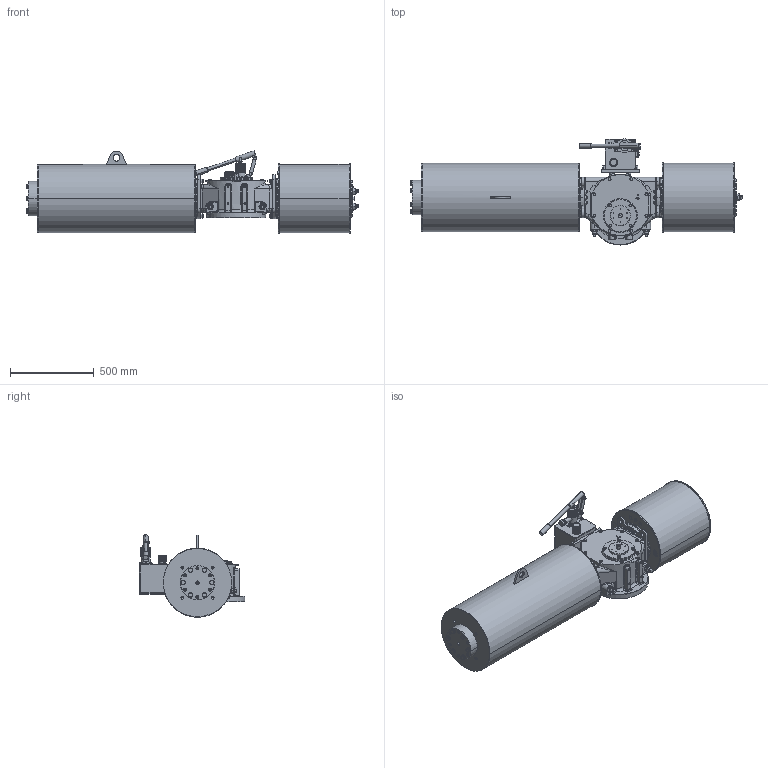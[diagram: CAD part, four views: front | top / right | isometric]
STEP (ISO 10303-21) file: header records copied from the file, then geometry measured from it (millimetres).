
FILE_DESCRIPTION (( 'STEP AP203' ), '1' );
FILE_NAME ('VTS4-400-SR-MH-FO.STEP', '2023-01-01T09:23:40', ( '' ), ( '' ), 'SwSTEP 2.0', 'SolidWorks 2020', '' );
FILE_SCHEMA (( 'CONFIG_CONTROL_DESIGN' ));
Length unit declared in the file: millimetre
Products named in the file (1): VTS4-400-SR-MH-FO
Bounding box: 1977.38 x 631.22 x 491.77 mm (x, y, z)
Volume: 215680866 mm3; surface area: 4201143.3 mm2
Topology: 54 solids, 57 shells, 2849 faces, 7042 edges, 4437 vertices
Faces by surface type: plane 1181, cylinder 975, cone 561, bspline 102, torus 30
Entity records: 96950 total; most frequent: CARTESIAN_POINT 29525, DIRECTION 14354, ORIENTED_EDGE 13900, EDGE_CURVE 6950, AXIS2_PLACEMENT_3D 5630, VERTEX_POINT 4437, EDGE_LOOP 3223, LINE 3094
